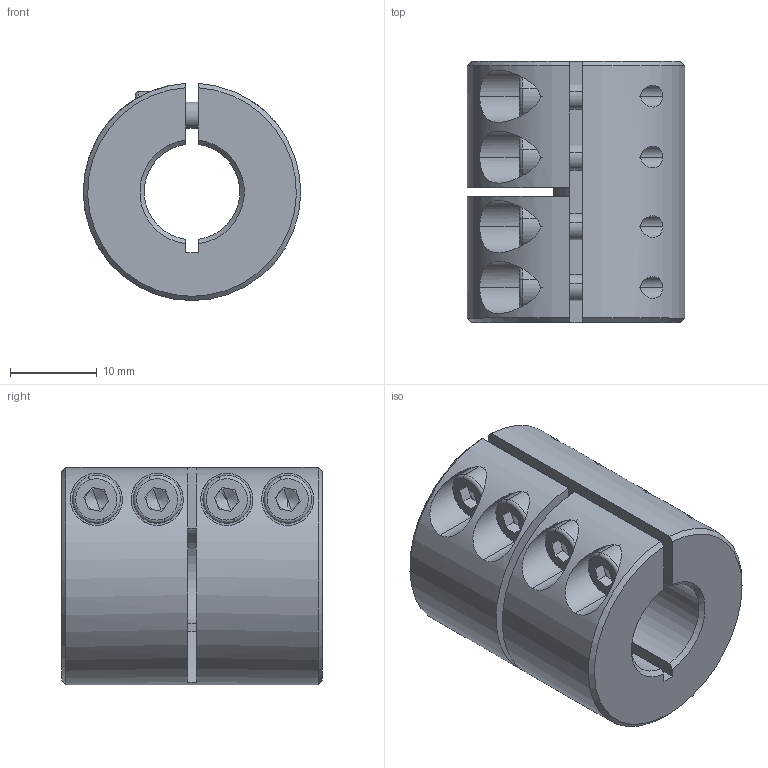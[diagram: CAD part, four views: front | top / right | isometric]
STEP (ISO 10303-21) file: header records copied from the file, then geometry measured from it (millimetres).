
FILE_DESCRIPTION (( 'STEP AP214' ), '1' );
FILE_NAME ('LL-B-D25L30-11-11½¨Ä£.STEP', '2022-07-21T03:20:24', ( '' ), ( '' ), 'SwSTEP 2.0', 'SolidWorks 2022', '' );
FILE_SCHEMA (( 'AUTOMOTIVE_DESIGN' ));
Length unit declared in the file: millimetre
Products named in the file (1): LL-B-D25L30-11-11膘耀
Bounding box: 24.99 x 30 x 24.98 mm (x, y, z)
Volume: 10883.8 mm3; surface area: 5880.9 mm2
Topology: 1 solids, 1 shells, 162 faces, 412 edges, 260 vertices
Faces by surface type: plane 82, cylinder 57, cone 15, torus 8
Entity records: 5334 total; most frequent: CARTESIAN_POINT 1351, DIRECTION 850, ORIENTED_EDGE 808, EDGE_CURVE 404, AXIS2_PLACEMENT_3D 327, VERTEX_POINT 260, VECTOR 196, LINE 196
